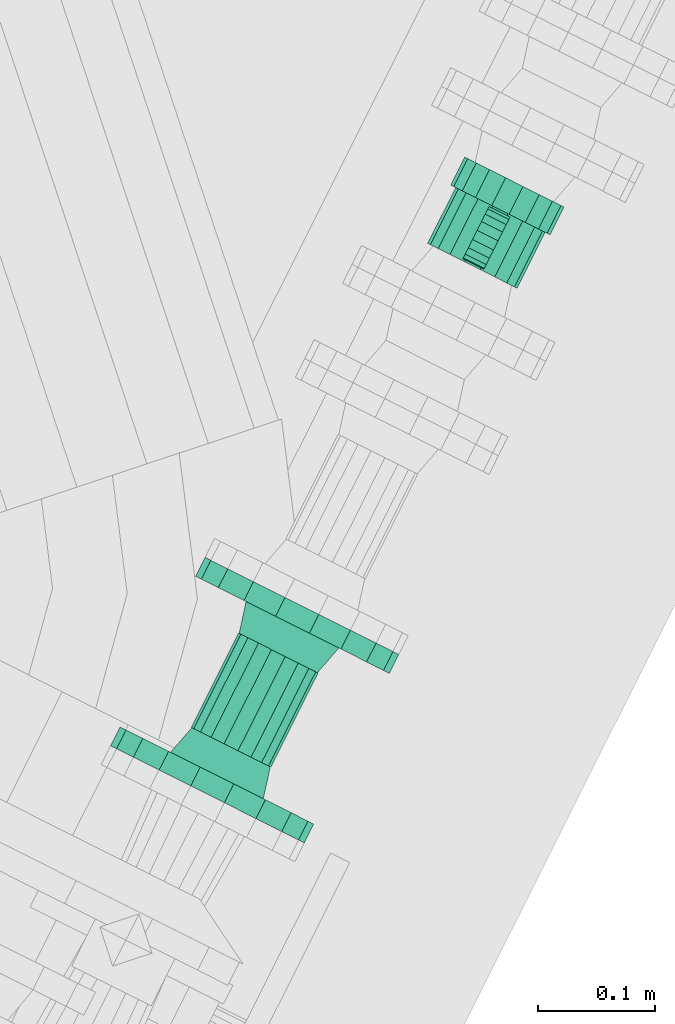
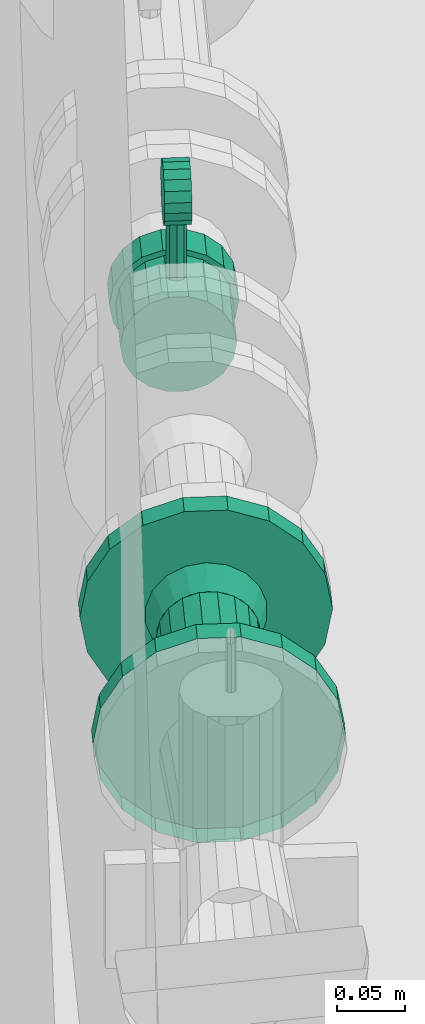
# One storey, part 77 of 206: 2 flow fittings, 1 distribution control element, 1 flow controller, 1 flow segment.
"""IFC2X3 building model written with IfcOpenShell, lengths in metres."""

from ifc_helpers import new_model, si_unit, derived_unit, direction, frame, origin, place, context, subcontext, project, spatial, face_set, surface_model, source, transform, mapped, material, type_object, type_shapes, element, save


model = new_model("IFC2X3")

# Units and contexts
model_context = context("Model", 3, precision=5.2338327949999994e-05, world=origin(), true_north=direction((0.0, 1.0)))
body_context = subcontext(model_context, "Body", "Model", "MODEL_VIEW")
ifc_project = project(units=[si_unit("LENGTHUNIT", "METRE"), si_unit("AREAUNIT", "SQUARE_METRE"), si_unit("VOLUMEUNIT", "CUBIC_METRE"), si_unit("MASSUNIT", "GRAM", prefix="KILO"), si_unit("PLANEANGLEUNIT", "RADIAN"), derived_unit("THERMALTRANSMITTANCEUNIT", [(si_unit("MASSUNIT", "GRAM", prefix="KILO"), 1), (si_unit("THERMODYNAMICTEMPERATUREUNIT", "KELVIN"), -1), (si_unit("TIMEUNIT", "SECOND"), -3)])], contexts=[model_context])

# Site, building, storey
site_placement = place(None, frame((0.0, 0.0, 0.0), z_axis=(0.0, 0.0, 1.0), x_axis=(0.8939966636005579, -0.4480736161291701, 0.0)))
site = spatial("IfcSite", under=ifc_project, at=site_placement, Name="Default", CompositionType="ELEMENT")
building_placement = place(site_placement, origin())
building = spatial("IfcBuilding", under=site, at=building_placement, CompositionType="ELEMENT")
storey_placement = place(building_placement, origin())
storey = spatial("IfcBuildingStorey", under=building, at=storey_placement, Name="Erdgeschoss", CompositionType="ELEMENT", Elevation=0.0)

# Distribution control element
ifc_material = material(Name="IfcSurfaceStyle #352577")
distribution_element_type_1 = type_object("IfcDistributionElementType", Name="Messarmatur 604316:Messarmatur 604316", material=ifc_material)
shared_shape_1 = source(origin(), body_context, "Body", "SurfaceModel", [
    surface_model("IfcFaceBasedSurfaceModel", [(27.435642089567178, 6.087302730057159, 1.0054276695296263), (27.435642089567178, 6.080190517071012, 1.0104076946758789), (27.45564208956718, 6.0801905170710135, 1.0104076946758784), (27.45564208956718, 6.087302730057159, 1.0054276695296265), (27.435642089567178, 6.071803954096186, 1.0126548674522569), (27.45564208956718, 6.071803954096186, 1.0126548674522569), (27.435642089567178, 6.063154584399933, 1.011898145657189), (27.45564208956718, 6.063154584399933, 1.011898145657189), (27.435642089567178, 6.055285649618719, 1.0082288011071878), (27.45564208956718, 6.055285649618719, 1.0082288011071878), (27.435642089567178, 6.04914625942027, 1.002089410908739), (27.45564208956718, 6.04914625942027, 1.002089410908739), (27.435642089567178, 6.045476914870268, 0.9942204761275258), (27.45564208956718, 6.045476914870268, 0.9942204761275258), (27.435642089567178, 6.044720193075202, 0.9855711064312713), (27.45564208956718, 6.044720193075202, 0.9855711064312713), (27.435642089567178, 6.046967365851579, 0.9771845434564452), (27.45564208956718, 6.046967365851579, 0.9771845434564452), (27.435642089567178, 6.051947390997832, 0.9700723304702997), (27.45564208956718, 6.051947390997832, 0.9700723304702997), (27.435642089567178, 6.059059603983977, 0.9650923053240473), (27.45564208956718, 6.059059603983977, 0.9650923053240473), (27.435642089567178, 6.067446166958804, 0.9628451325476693), (27.45564208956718, 6.067446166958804, 0.9628451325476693), (27.435642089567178, 6.076095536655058, 0.9636018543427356), (27.45564208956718, 6.076095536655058, 0.9636018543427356), (27.435642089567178, 6.083964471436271, 0.9672711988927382), (27.45564208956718, 6.083964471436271, 0.9672711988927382), (27.435642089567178, 6.090103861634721, 0.9734105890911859), (27.45564208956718, 6.090103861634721, 0.9734105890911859), (27.435642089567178, 6.093773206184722, 0.9812795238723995), (27.45564208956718, 6.093773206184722, 0.9812795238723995), (27.435642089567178, 6.0945299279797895, 0.989928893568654), (27.45564208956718, 6.0945299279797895, 0.989928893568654), (27.435642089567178, 6.092282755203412, 0.9983154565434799), (27.45564208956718, 6.092282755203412, 0.9983154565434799), (27.435642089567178, 6.069625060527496, 0.9877499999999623), (27.45564208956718, 6.069625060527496, 0.9877499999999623), (27.43814208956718, 6.069625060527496, 0.9127499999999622), (27.440338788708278, 6.064321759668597, 0.9127499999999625), (27.440338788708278, 6.064321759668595, 0.962749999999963), (27.43814208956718, 6.069625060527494, 0.9627499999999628), (27.44564208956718, 6.062125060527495, 0.9127499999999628), (27.44564208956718, 6.062125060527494, 0.9627499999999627), (27.450945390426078, 6.064321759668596, 0.9127499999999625), (27.450945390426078, 6.064321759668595, 0.962749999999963), (27.453142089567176, 6.0696250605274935, 0.9127499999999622), (27.453142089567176, 6.069625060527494, 0.9627499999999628), (27.450945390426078, 6.0749283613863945, 0.9127499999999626), (27.450945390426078, 6.0749283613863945, 0.962749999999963), (27.44564208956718, 6.077125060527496, 0.9127499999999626), (27.44564208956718, 6.077125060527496, 0.9627499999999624), (27.440338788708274, 6.074928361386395, 0.9127499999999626), (27.440338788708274, 6.074928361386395, 0.962749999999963)], [face_set([[[0, 1, 2, 3]], [[1, 4, 5, 2]], [[4, 6, 7, 5]], [[6, 8, 9, 7]], [[8, 10, 11, 9]], [[10, 12, 13, 11]], [[12, 14, 15, 13]], [[14, 16, 17, 15]], [[16, 18, 19, 17]], [[18, 20, 21, 19]], [[20, 22, 23, 21]], [[22, 24, 25, 23]], [[24, 26, 27, 25]], [[26, 28, 29, 27]], [[28, 30, 31, 29]], [[30, 32, 33, 31]], [[32, 34, 35, 33]], [[34, 0, 3, 35]], [[36, 1, 0]], [[36, 4, 1]], [[36, 6, 4]], [[36, 8, 6]], [[36, 10, 8]], [[36, 12, 10]], [[36, 14, 12]], [[36, 16, 14]], [[36, 18, 16]], [[36, 20, 18]], [[36, 22, 20]], [[36, 24, 22]], [[36, 26, 24]], [[36, 28, 26]], [[36, 30, 28]], [[36, 32, 30]], [[36, 34, 32]], [[36, 0, 34]], [[37, 35, 3]], [[37, 33, 35]], [[37, 31, 33]], [[37, 29, 31]], [[37, 27, 29]], [[37, 25, 27]], [[37, 23, 25]], [[37, 21, 23]], [[37, 19, 21]], [[37, 17, 19]], [[37, 15, 17]], [[37, 13, 15]], [[37, 11, 13]], [[37, 9, 11]], [[37, 7, 9]], [[37, 5, 7]], [[37, 2, 5]], [[37, 3, 2]], [[38, 39, 40, 41]], [[39, 42, 43, 40]], [[42, 44, 45, 43]], [[44, 46, 47, 45]], [[46, 48, 49, 47]], [[48, 50, 51, 49]], [[50, 52, 53, 51]], [[52, 38, 41, 53]]])]),
])
type_shapes(distribution_element_type_1, [shared_shape_1])
distribution_control_element_placement = place(storey_placement, origin())
element("IfcDistributionControlElement", 1, at=distribution_control_element_placement, inside=storey, type_object=distribution_element_type_1, material=ifc_material, Name="Messarmatur", ObjectType="Messarmatur", context=body_context, shape_type="MappedRepresentation", body=[
    mapped(shared_shape_1, transform((0.0, 0.0, 0.0), scale=1.0)),
])

# Flow controller
distribution_element_type_2 = type_object("IfcDistributionElementType", Name="Gasfilter 604339:Gasfilter 604339", material=ifc_material)
shared_shape_2 = source(origin(), body_context, "Body", "SurfaceModel", [
    surface_model("IfcFaceBasedSurfaceModel", [(27.402892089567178, 6.04295839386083, 0.869999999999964), (27.40547023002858, 6.04295839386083, 0.8846213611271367), (27.40547023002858, 6.096291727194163, 0.884621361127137), (27.402892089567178, 6.096291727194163, 0.869999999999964), (27.412893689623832, 6.04295839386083, 0.8974791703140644), (27.412893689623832, 6.096291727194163, 0.8974791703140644), (27.424267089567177, 6.04295839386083, 0.907022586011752), (27.424267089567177, 6.096291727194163, 0.907022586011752), (27.438218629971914, 6.04295839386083, 0.9121005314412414), (27.438218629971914, 6.096291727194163, 0.9121005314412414), (27.453065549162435, 6.04295839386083, 0.9121005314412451), (27.453065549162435, 6.096291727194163, 0.9121005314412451), (27.46701708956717, 6.04295839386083, 0.9070225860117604), (27.46701708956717, 6.096291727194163, 0.9070225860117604), (27.478390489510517, 6.04295839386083, 0.897479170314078), (27.478390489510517, 6.096291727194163, 0.897479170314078), (27.48581394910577, 6.04295839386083, 0.8846213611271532), (27.48581394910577, 6.096291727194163, 0.8846213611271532), (27.48839208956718, 6.04295839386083, 0.8699999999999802), (27.48839208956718, 6.096291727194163, 0.8699999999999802), (27.485813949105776, 6.04295839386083, 0.8553786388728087), (27.485813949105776, 6.096291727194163, 0.8553786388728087), (27.47839048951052, 6.04295839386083, 0.8425208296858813), (27.47839048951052, 6.096291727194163, 0.8425208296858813), (27.46701708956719, 6.04295839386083, 0.8329774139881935), (27.46701708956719, 6.096291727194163, 0.8329774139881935), (27.453065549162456, 6.04295839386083, 0.8278994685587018), (27.453065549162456, 6.096291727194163, 0.8278994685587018), (27.43821862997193, 6.04295839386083, 0.8278994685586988), (27.43821862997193, 6.096291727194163, 0.8278994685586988), (27.42426708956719, 6.04295839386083, 0.832977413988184), (27.42426708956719, 6.096291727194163, 0.832977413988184), (27.41289368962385, 6.04295839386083, 0.8425208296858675), (27.41289368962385, 6.096291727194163, 0.8425208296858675), (27.405470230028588, 6.04295839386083, 0.8553786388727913), (27.405470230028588, 6.096291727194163, 0.8553786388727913), (27.44564208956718, 6.04295839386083, 0.8699999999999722), (27.39814208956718, 6.096291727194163, 0.8699999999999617), (27.40100669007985, 6.096291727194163, 0.8862459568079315), (27.40100669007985, 6.12295839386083, 0.8862459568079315), (27.39814208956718, 6.12295839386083, 0.8699999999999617), (27.409254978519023, 6.096291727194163, 0.9005324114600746), (27.409254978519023, 6.12295839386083, 0.9005324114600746), (27.421892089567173, 6.096291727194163, 0.9111362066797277), (27.421892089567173, 6.12295839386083, 0.9111362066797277), (27.43739380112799, 6.096291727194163, 0.9167783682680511), (27.43739380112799, 6.12295839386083, 0.9167783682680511), (27.453890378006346, 6.096291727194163, 0.9167783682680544), (27.453890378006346, 6.12295839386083, 0.9167783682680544), (27.46939208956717, 6.096291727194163, 0.9111362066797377), (27.46939208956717, 6.12295839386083, 0.9111362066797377), (27.482029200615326, 6.096291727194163, 0.9005324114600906), (27.482029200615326, 6.12295839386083, 0.9005324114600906), (27.490277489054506, 6.096291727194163, 0.88624595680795), (27.490277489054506, 6.12295839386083, 0.88624595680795), (27.493142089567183, 6.096291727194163, 0.8699999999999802), (27.493142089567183, 6.12295839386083, 0.8699999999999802), (27.490277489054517, 6.096291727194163, 0.8537540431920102), (27.490277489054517, 6.12295839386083, 0.8537540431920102), (27.48202920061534, 6.096291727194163, 0.8394675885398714), (27.48202920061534, 6.12295839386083, 0.8394675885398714), (27.469392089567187, 6.096291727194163, 0.8288637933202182), (27.469392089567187, 6.12295839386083, 0.8288637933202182), (27.453890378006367, 6.096291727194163, 0.823221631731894), (27.453890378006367, 6.12295839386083, 0.823221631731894), (27.43739380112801, 6.096291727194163, 0.823221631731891), (27.43739380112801, 6.12295839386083, 0.823221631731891), (27.421892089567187, 6.096291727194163, 0.8288637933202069), (27.421892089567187, 6.12295839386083, 0.8288637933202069), (27.409254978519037, 6.096291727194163, 0.8394675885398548), (27.409254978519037, 6.12295839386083, 0.8394675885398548), (27.40100669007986, 6.096291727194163, 0.853754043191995), (27.40100669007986, 6.12295839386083, 0.853754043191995), (27.44564208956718, 6.096291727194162, 0.8699999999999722), (27.44564208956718, 6.12295839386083, 0.8699999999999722)], [face_set([[[0, 1, 2, 3]], [[1, 4, 5, 2]], [[4, 6, 7, 5]], [[6, 8, 9, 7]], [[8, 10, 11, 9]], [[10, 12, 13, 11]], [[12, 14, 15, 13]], [[14, 16, 17, 15]], [[16, 18, 19, 17]], [[18, 20, 21, 19]], [[20, 22, 23, 21]], [[22, 24, 25, 23]], [[24, 26, 27, 25]], [[26, 28, 29, 27]], [[28, 30, 31, 29]], [[30, 32, 33, 31]], [[32, 34, 35, 33]], [[34, 0, 3, 35]], [[36, 1, 0]], [[36, 4, 1]], [[36, 6, 4]], [[36, 8, 6]], [[36, 10, 8]], [[36, 12, 10]], [[36, 14, 12]], [[36, 16, 14]], [[36, 18, 16]], [[36, 20, 18]], [[36, 22, 20]], [[36, 24, 22]], [[36, 26, 24]], [[36, 28, 26]], [[36, 30, 28]], [[36, 32, 30]], [[36, 34, 32]], [[36, 0, 34]], [[37, 38, 39, 40]], [[38, 41, 42, 39]], [[41, 43, 44, 42]], [[43, 45, 46, 44]], [[45, 47, 48, 46]], [[47, 49, 50, 48]], [[49, 51, 52, 50]], [[51, 53, 54, 52]], [[53, 55, 56, 54]], [[55, 57, 58, 56]], [[57, 59, 60, 58]], [[59, 61, 62, 60]], [[61, 63, 64, 62]], [[63, 65, 66, 64]], [[65, 67, 68, 66]], [[67, 69, 70, 68]], [[69, 71, 72, 70]], [[71, 37, 40, 72]], [[73, 38, 37]], [[73, 41, 38]], [[73, 43, 41]], [[73, 45, 43]], [[73, 47, 45]], [[73, 49, 47]], [[73, 51, 49]], [[73, 53, 51]], [[73, 55, 53]], [[73, 57, 55]], [[73, 59, 57]], [[73, 61, 59]], [[73, 63, 61]], [[73, 65, 63]], [[73, 67, 65]], [[73, 69, 67]], [[73, 71, 69]], [[73, 37, 71]], [[74, 72, 40]], [[74, 70, 72]], [[74, 68, 70]], [[74, 66, 68]], [[74, 64, 66]], [[74, 62, 64]], [[74, 60, 62]], [[74, 58, 60]], [[74, 56, 58]], [[74, 54, 56]], [[74, 52, 54]], [[74, 50, 52]], [[74, 48, 50]], [[74, 46, 48]], [[74, 44, 46]], [[74, 42, 44]], [[74, 39, 42]], [[74, 40, 39]]])]),
])
type_shapes(distribution_element_type_2, [shared_shape_2])
flow_controller_placement = place(storey_placement, origin())
element("IfcFlowController", 2, at=flow_controller_placement, inside=storey, type_object=distribution_element_type_2, material=ifc_material, Name="Gasfilter", ObjectType="Gasfilter", context=body_context, shape_type="MappedRepresentation", body=[
    mapped(shared_shape_2, transform((0.0, 0.0, 0.0), scale=1.0)),
])

# Flow fitting
distribution_element_type_3 = type_object("IfcDistributionElementType", Name="Flansch 604638:Flansch 604638", material=ifc_material)
shared_shape_3 = source(origin(), body_context, "Body", "SurfaceModel", [
    surface_model("IfcFaceBasedSurfaceModel", [(27.445642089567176, 5.582958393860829, 0.9080499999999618), (27.432628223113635, 5.582958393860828, 0.905755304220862), (27.43025118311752, 5.555958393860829, 0.9122861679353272), (27.445642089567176, 5.5559583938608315, 0.9149999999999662), (27.421184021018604, 5.582958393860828, 0.8991479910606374), (27.41671664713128, 5.55595839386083, 0.9044719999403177), (27.412689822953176, 5.582958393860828, 0.8890249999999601), (27.406670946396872, 5.555958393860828, 0.8924999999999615), (27.40817015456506, 5.582958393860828, 0.8766073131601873), (27.401325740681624, 5.555958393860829, 0.8778141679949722), (27.40817015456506, 5.582958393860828, 0.8633926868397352), (27.401325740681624, 5.555958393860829, 0.8621858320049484), (27.412689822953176, 5.582958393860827, 0.8509749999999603), (27.406670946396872, 5.555958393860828, 0.847499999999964), (27.421184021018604, 5.582958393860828, 0.8408520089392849), (27.41671664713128, 5.555958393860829, 0.8355280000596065), (27.432628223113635, 5.582958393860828, 0.8342446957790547), (27.430251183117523, 5.555958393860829, 0.8277138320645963), (27.44564208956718, 5.582958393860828, 0.8319499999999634), (27.445642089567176, 5.55595839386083, 0.8249999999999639), (27.458655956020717, 5.582958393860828, 0.8342446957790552), (27.46103299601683, 5.55595839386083, 0.8277138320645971), (27.470100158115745, 5.582958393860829, 0.8408520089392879), (27.474567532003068, 5.55595839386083, 0.835528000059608), (27.478594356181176, 5.582958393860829, 0.8509749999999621), (27.484613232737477, 5.55595839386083, 0.8474999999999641), (27.48311402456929, 5.582958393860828, 0.8633926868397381), (27.48995843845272, 5.555958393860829, 0.86218583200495), (27.48311402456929, 5.582958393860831, 0.8766073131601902), (27.489958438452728, 5.5559583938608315, 0.8778141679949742), (27.47859435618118, 5.582958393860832, 0.8890249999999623), (27.48461323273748, 5.5559583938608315, 0.8924999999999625), (27.470100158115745, 5.582958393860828, 0.8991479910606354), (27.474567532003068, 5.55595839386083, 0.904471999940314), (27.458655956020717, 5.582958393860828, 0.9057553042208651), (27.461032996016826, 5.5559583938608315, 0.9122861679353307), (27.538142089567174, 5.555958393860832, 0.8699999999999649), (27.532563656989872, 5.555958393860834, 0.9016368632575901), (27.532563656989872, 5.53795839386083, 0.9016368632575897), (27.538142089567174, 5.53795839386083, 0.8699999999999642), (27.516501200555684, 5.5559583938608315, 0.9294578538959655), (27.516501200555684, 5.537958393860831, 0.9294578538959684), (27.491892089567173, 5.55595839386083, 0.9501073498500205), (27.491892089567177, 5.53795839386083, 0.9501073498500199), (27.461704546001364, 5.555958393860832, 0.9610947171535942), (27.461704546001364, 5.53795839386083, 0.9610947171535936), (27.429579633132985, 5.555958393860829, 0.9610947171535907), (27.429579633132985, 5.537958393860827, 0.9610947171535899), (27.399392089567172, 5.555958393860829, 0.9501073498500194), (27.399392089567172, 5.537958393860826, 0.9501073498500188), (27.374782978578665, 5.555958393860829, 0.9294578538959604), (27.374782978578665, 5.537958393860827, 0.929457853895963), (27.358720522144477, 5.555958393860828, 0.9016368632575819), (27.358720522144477, 5.5379583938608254, 0.9016368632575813), (27.35314208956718, 5.55595839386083, 0.8699999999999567), (27.35314208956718, 5.537958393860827, 0.8699999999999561), (27.358720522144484, 5.555958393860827, 0.8383631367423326), (27.358720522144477, 5.537958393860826, 0.8383631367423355), (27.37478297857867, 5.555958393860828, 0.8105421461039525), (27.37478297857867, 5.537958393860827, 0.8105421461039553), (27.399392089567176, 5.555958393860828, 0.7898926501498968), (27.399392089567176, 5.537958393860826, 0.7898926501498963), (27.429579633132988, 5.55595839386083, 0.7789052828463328), (27.429579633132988, 5.537958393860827, 0.7789052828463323), (27.461704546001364, 5.55595839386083, 0.7789052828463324), (27.461704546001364, 5.537958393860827, 0.7789052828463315), (27.491892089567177, 5.55595839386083, 0.7898926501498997), (27.491892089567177, 5.537958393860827, 0.7898926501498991), (27.516501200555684, 5.55595839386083, 0.8105421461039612), (27.516501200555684, 5.537958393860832, 0.8105421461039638), (27.532563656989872, 5.555958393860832, 0.8383631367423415), (27.532563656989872, 5.537958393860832, 0.8383631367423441), (27.44564208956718, 5.555958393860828, 0.8699999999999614)], [face_set([[[0, 1, 2, 3]], [[1, 4, 5, 2]], [[4, 6, 7, 5]], [[6, 8, 9, 7]], [[8, 10, 11, 9]], [[10, 12, 13, 11]], [[12, 14, 15, 13]], [[14, 16, 17, 15]], [[16, 18, 19, 17]], [[18, 20, 21, 19]], [[20, 22, 23, 21]], [[22, 24, 25, 23]], [[24, 26, 27, 25]], [[26, 28, 29, 27]], [[28, 30, 31, 29]], [[30, 32, 33, 31]], [[32, 34, 35, 33]], [[34, 0, 3, 35]], [[36, 37, 38, 39]], [[37, 40, 41, 38]], [[40, 42, 43, 41]], [[42, 44, 45, 43]], [[44, 46, 47, 45]], [[46, 48, 49, 47]], [[48, 50, 51, 49]], [[50, 52, 53, 51]], [[52, 54, 55, 53]], [[54, 56, 57, 55]], [[56, 58, 59, 57]], [[58, 60, 61, 59]], [[60, 62, 63, 61]], [[62, 64, 65, 63]], [[64, 66, 67, 65]], [[66, 68, 69, 67]], [[68, 70, 71, 69]], [[70, 36, 39, 71]], [[72, 37, 36]], [[72, 40, 37]], [[72, 42, 40]], [[72, 44, 42]], [[72, 46, 44]], [[72, 48, 46]], [[72, 50, 48]], [[72, 52, 50]], [[72, 54, 52]], [[72, 56, 54]], [[72, 58, 56]], [[72, 60, 58]], [[72, 62, 60]], [[72, 64, 62]], [[72, 66, 64]], [[72, 68, 66]], [[72, 70, 68]], [[72, 36, 70]]])]),
])
type_shapes(distribution_element_type_3, [shared_shape_3])
flow_fitting_1_placement = place(storey_placement, origin())
element("IfcFlowFitting", 3, at=flow_fitting_1_placement, inside=storey, type_object=distribution_element_type_3, material=ifc_material, Name="Flansch", ObjectType="Flansch", context=body_context, shape_type="MappedRepresentation", body=[
    mapped(shared_shape_3, transform((0.0, 0.0, 0.0), scale=1.0)),
])

# Flow segment
distribution_element_type_4 = type_object("IfcDistributionElementType", Name="Stahlrohr nach DIN 2448 604797:Stahlrohr nach DIN 2448 604797", material=ifc_material)
shared_shape_4 = source(origin(), body_context, "Body", "SurfaceModel", [
    surface_model("IfcFaceBasedSurfaceModel", [(27.483692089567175, 5.672958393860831, 0.8699999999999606), (27.48139739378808, 5.672958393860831, 0.8830138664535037), (27.48139739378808, 5.582958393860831, 0.8830138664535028), (27.48369208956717, 5.582958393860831, 0.869999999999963), (27.474790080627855, 5.672958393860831, 0.8944580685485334), (27.47479008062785, 5.582958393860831, 0.8944580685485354), (27.464667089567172, 5.672958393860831, 0.9029522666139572), (27.464667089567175, 5.582958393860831, 0.9029522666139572), (27.4522494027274, 5.672958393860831, 0.9074719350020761), (27.4522494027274, 5.582958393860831, 0.9074719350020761), (27.43903477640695, 5.672958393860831, 0.9074719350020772), (27.439034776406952, 5.582958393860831, 0.9074719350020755), (27.426617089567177, 5.672958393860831, 0.9029522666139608), (27.426617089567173, 5.582958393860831, 0.9029522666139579), (27.416494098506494, 5.672958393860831, 0.8944580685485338), (27.416494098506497, 5.582958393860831, 0.8944580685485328), (27.409886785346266, 5.672958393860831, 0.8830138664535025), (27.409886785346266, 5.582958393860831, 0.8830138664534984), (27.407592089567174, 5.672958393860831, 0.8699999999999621), (27.407592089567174, 5.582958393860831, 0.8699999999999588), (27.409886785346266, 5.672958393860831, 0.8569861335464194), (27.409886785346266, 5.582958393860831, 0.8569861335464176), (27.41649409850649, 5.672958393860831, 0.8455419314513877), (27.4164940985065, 5.582958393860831, 0.8455419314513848), (27.426617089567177, 5.672958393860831, 0.8370477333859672), (27.426617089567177, 5.582958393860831, 0.8370477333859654), (27.439034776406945, 5.672958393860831, 0.8325280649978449), (27.439034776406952, 5.582958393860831, 0.8325280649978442), (27.4522494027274, 5.672958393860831, 0.8325280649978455), (27.452249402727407, 5.582958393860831, 0.8325280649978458), (27.464667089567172, 5.672958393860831, 0.8370477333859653), (27.464667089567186, 5.582958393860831, 0.8370477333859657), (27.47479008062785, 5.672958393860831, 0.8455419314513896), (27.474790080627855, 5.582958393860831, 0.84554193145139), (27.48139739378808, 5.672958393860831, 0.8569861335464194), (27.481397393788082, 5.582958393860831, 0.8569861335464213)], [face_set([[[0, 1, 2, 3]], [[1, 4, 5, 2]], [[4, 6, 7, 5]], [[6, 8, 9, 7]], [[8, 10, 11, 9]], [[10, 12, 13, 11]], [[12, 14, 15, 13]], [[14, 16, 17, 15]], [[16, 18, 19, 17]], [[18, 20, 21, 19]], [[20, 22, 23, 21]], [[22, 24, 25, 23]], [[24, 26, 27, 25]], [[26, 28, 29, 27]], [[28, 30, 31, 29]], [[30, 32, 33, 31]], [[32, 34, 35, 33]], [[34, 0, 3, 35]]])]),
])
type_shapes(distribution_element_type_4, [shared_shape_4])
flow_segment_placement = place(storey_placement, origin())
element("IfcFlowSegment", 4, at=flow_segment_placement, inside=storey, type_object=distribution_element_type_4, material=ifc_material, Name="Stahlrohr nach DIN 2448", ObjectType="Stahlrohr nach DIN 2448", context=body_context, shape_type="MappedRepresentation", body=[
    mapped(shared_shape_4, transform((0.0, 0.0, 0.0), scale=1.0)),
])

# Flow fitting
distribution_element_type_5 = type_object("IfcDistributionElementType", Name="Flansch 604908:Flansch 604908", material=ifc_material)
shared_shape_5 = source(origin(), body_context, "Body", "SurfaceModel", [
    surface_model("IfcFaceBasedSurfaceModel", [(27.353142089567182, 5.71795839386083, 0.8699999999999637), (27.358720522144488, 5.71795839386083, 0.8383631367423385), (27.358720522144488, 5.699958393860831, 0.8383631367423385), (27.353142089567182, 5.699958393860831, 0.8699999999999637), (27.37478297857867, 5.71795839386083, 0.8105421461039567), (27.37478297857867, 5.699958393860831, 0.8105421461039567), (27.399392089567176, 5.71795839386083, 0.7898926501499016), (27.399392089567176, 5.699958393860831, 0.7898926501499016), (27.429579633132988, 5.71795839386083, 0.778905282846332), (27.429579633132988, 5.699958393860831, 0.778905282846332), (27.46170454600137, 5.71795839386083, 0.7789052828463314), (27.46170454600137, 5.699958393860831, 0.7789052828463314), (27.491892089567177, 5.71795839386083, 0.7898926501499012), (27.491892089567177, 5.699958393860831, 0.7898926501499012), (27.516501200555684, 5.71795839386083, 0.8105421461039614), (27.516501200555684, 5.699958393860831, 0.8105421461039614), (27.532563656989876, 5.71795839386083, 0.8383631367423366), (27.532563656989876, 5.699958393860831, 0.8383631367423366), (27.538142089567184, 5.71795839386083, 0.8699999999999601), (27.538142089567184, 5.699958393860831, 0.8699999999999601), (27.532563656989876, 5.71795839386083, 0.9016368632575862), (27.532563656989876, 5.699958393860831, 0.9016368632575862), (27.516501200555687, 5.71795839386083, 0.9294578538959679), (27.516501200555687, 5.699958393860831, 0.9294578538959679), (27.491892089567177, 5.71795839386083, 0.9501073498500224), (27.491892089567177, 5.699958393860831, 0.9501073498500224), (27.46170454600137, 5.71795839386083, 0.9610947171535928), (27.46170454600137, 5.699958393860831, 0.9610947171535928), (27.429579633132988, 5.71795839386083, 0.9610947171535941), (27.429579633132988, 5.699958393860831, 0.9610947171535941), (27.399392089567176, 5.71795839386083, 0.9501073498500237), (27.399392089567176, 5.699958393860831, 0.9501073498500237), (27.37478297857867, 5.71795839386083, 0.9294578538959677), (27.37478297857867, 5.699958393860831, 0.9294578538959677), (27.358720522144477, 5.71795839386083, 0.9016368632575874), (27.358720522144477, 5.699958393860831, 0.9016368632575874), (27.44564208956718, 5.699958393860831, 0.8699999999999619), (27.44564208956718, 5.699958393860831, 0.8249999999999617), (27.461032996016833, 5.699958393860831, 0.8277138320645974), (27.45865595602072, 5.672958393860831, 0.8342446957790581), (27.44564208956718, 5.672958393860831, 0.8319499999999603), (27.47456753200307, 5.69995839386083, 0.8355280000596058), (27.470100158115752, 5.67295839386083, 0.8408520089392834), (27.48461323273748, 5.699958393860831, 0.8474999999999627), (27.478594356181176, 5.672958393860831, 0.8509749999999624), (27.489958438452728, 5.699958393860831, 0.8621858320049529), (27.483114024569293, 5.672958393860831, 0.8633926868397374), (27.489958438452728, 5.699958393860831, 0.8778141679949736), (27.48311402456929, 5.672958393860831, 0.8766073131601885), (27.484613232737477, 5.699958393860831, 0.8924999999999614), (27.478594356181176, 5.672958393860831, 0.8890249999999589), (27.47456753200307, 5.699958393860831, 0.9044719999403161), (27.470100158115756, 5.672958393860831, 0.8991479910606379), (27.46103299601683, 5.699958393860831, 0.9122861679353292), (27.45865595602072, 5.672958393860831, 0.9057553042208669), (27.44564208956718, 5.699958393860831, 0.91499999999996), (27.44564208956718, 5.672958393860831, 0.9080499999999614), (27.430251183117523, 5.699958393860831, 0.9122861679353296), (27.432628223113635, 5.672958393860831, 0.905755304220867), (27.416716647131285, 5.699958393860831, 0.9044719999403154), (27.421184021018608, 5.672958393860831, 0.8991479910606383), (27.406670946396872, 5.699958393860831, 0.8924999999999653), (27.412689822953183, 5.672958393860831, 0.8890249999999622), (27.401325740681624, 5.699958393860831, 0.8778141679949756), (27.40817015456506, 5.672958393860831, 0.8766073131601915), (27.401325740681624, 5.699958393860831, 0.8621858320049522), (27.40817015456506, 5.672958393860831, 0.8633926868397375), (27.40667094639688, 5.699958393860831, 0.8474999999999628), (27.412689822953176, 5.672958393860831, 0.8509749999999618), (27.416716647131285, 5.699958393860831, 0.8355280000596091), (27.421184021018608, 5.672958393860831, 0.8408520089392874), (27.430251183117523, 5.699958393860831, 0.827713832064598), (27.432628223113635, 5.672958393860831, 0.8342446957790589)], [face_set([[[0, 1, 2, 3]], [[1, 4, 5, 2]], [[4, 6, 7, 5]], [[6, 8, 9, 7]], [[8, 10, 11, 9]], [[10, 12, 13, 11]], [[12, 14, 15, 13]], [[14, 16, 17, 15]], [[16, 18, 19, 17]], [[18, 20, 21, 19]], [[20, 22, 23, 21]], [[22, 24, 25, 23]], [[24, 26, 27, 25]], [[26, 28, 29, 27]], [[28, 30, 31, 29]], [[30, 32, 33, 31]], [[32, 34, 35, 33]], [[34, 0, 3, 35]], [[36, 35, 3]], [[36, 33, 35]], [[36, 31, 33]], [[36, 29, 31]], [[36, 27, 29]], [[36, 25, 27]], [[36, 23, 25]], [[36, 21, 23]], [[36, 19, 21]], [[36, 17, 19]], [[36, 15, 17]], [[36, 13, 15]], [[36, 11, 13]], [[36, 9, 11]], [[36, 7, 9]], [[36, 5, 7]], [[36, 2, 5]], [[36, 3, 2]], [[37, 38, 39, 40]], [[38, 41, 42, 39]], [[41, 43, 44, 42]], [[43, 45, 46, 44]], [[45, 47, 48, 46]], [[47, 49, 50, 48]], [[49, 51, 52, 50]], [[51, 53, 54, 52]], [[53, 55, 56, 54]], [[55, 57, 58, 56]], [[57, 59, 60, 58]], [[59, 61, 62, 60]], [[61, 63, 64, 62]], [[63, 65, 66, 64]], [[65, 67, 68, 66]], [[67, 69, 70, 68]], [[69, 71, 72, 70]], [[71, 37, 40, 72]]])]),
])
type_shapes(distribution_element_type_5, [shared_shape_5])
flow_fitting_2_placement = place(storey_placement, origin())
element("IfcFlowFitting", 5, at=flow_fitting_2_placement, inside=storey, type_object=distribution_element_type_5, material=ifc_material, Name="Flansch", ObjectType="Flansch", context=body_context, shape_type="MappedRepresentation", body=[
    mapped(shared_shape_5, transform((0.0, 0.0, 0.0), scale=1.0)),
])

save(model, "model.ifc")
